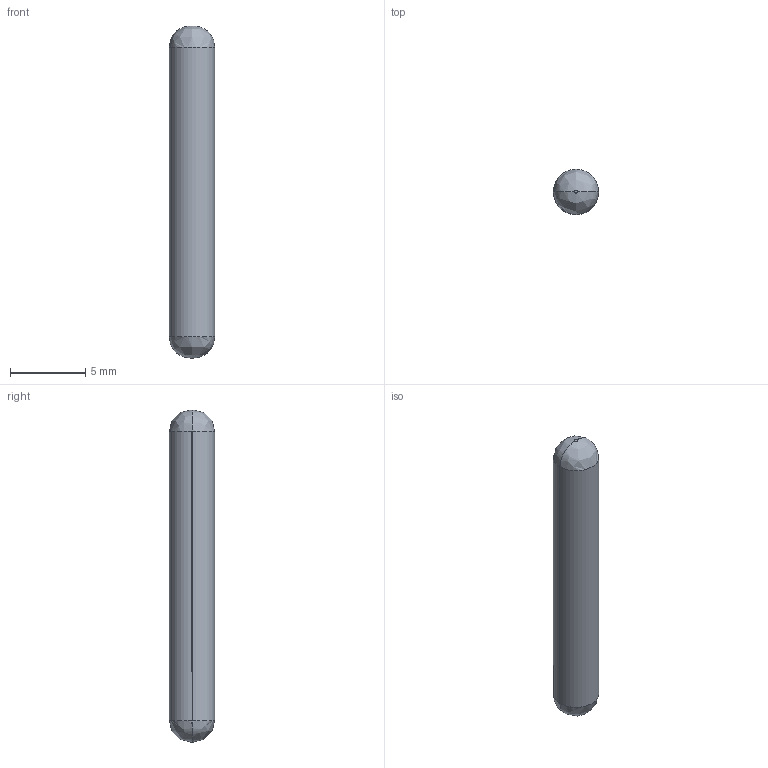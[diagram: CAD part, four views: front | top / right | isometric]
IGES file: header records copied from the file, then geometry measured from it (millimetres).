
Start section: SolidWorks IGES file using analytic representation for surfaces
Global section: file name: C:\Users\cbrechard\Desktop\GP 9\02.100.00.IGS; native system: SolidWorks 2008; preprocessor: SolidWorks 2008; author: cbrechard; date: 130305.170903; units: millimetre
Bounding box: 3 x 3 x 22 mm (x, y, z)
Surface area: 208.4 mm2 (no closed solid volume)
Topology: 0 solids, 0 shells, 8 faces, 56 edges, 56 vertices
Faces by surface type: bspline 6, revolution 2
